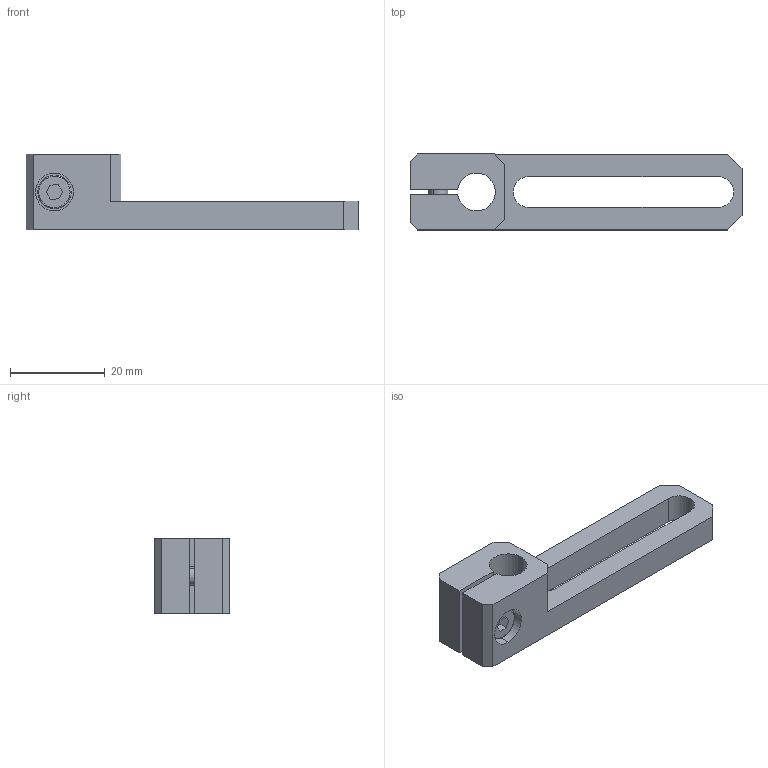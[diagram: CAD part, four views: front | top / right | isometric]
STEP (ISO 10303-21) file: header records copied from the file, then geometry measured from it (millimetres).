
FILE_DESCRIPTION (( 'STEP AP214' ), '1' );
FILE_NAME ('SCF4-0840W16T.STEP', '2023-02-03T02:52:51', ( 'Windows User' ), ( 'P R C' ), 'SwSTEP 2.0', 'SolidWorks 2019', '' );
FILE_SCHEMA (( 'AUTOMOTIVE_DESIGN' ));
Length unit declared in the file: millimetre
Products named in the file (1): SCF4-0840W16T
Bounding box: 70 x 16 x 16 mm (x, y, z)
Volume: 6883.2 mm3; surface area: 5020.5 mm2
Topology: 3 solids, 3 shells, 244 faces, 699 edges, 462 vertices
Faces by surface type: plane 222, cylinder 18, cone 2, bspline 2
Entity records: 10811 total; most frequent: CARTESIAN_POINT 1530, DIRECTION 1403, ORIENTED_EDGE 1398, EDGE_CURVE 699, VECTOR 473, LINE 473, AXIS2_PLACEMENT_3D 465, VERTEX_POINT 462
